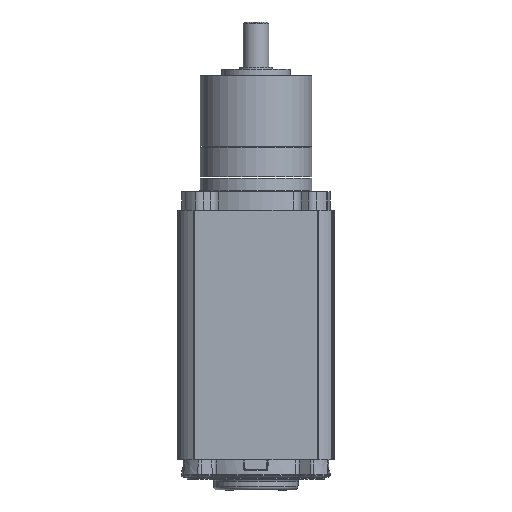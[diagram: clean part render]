
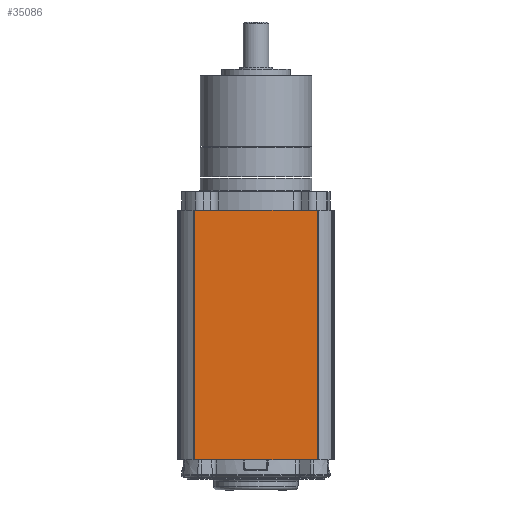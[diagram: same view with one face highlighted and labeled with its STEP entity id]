
A CAD part, front view. The second image highlights one B-rep face of the part: STEP entity #35086.
In plain terms, the highlighted planar face has unit normal (0, -1, 0).
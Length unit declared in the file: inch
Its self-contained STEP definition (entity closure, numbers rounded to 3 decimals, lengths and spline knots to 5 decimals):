
#1965 = LINE ( 'NONE', #20053, #46729 ) ;
#2117 = VECTOR ( 'NONE', #35006, 39.37008 ) ;
#2620 = DIRECTION ( 'NONE',  ( 1., 0., 0. ) ) ;
#2796 = DIRECTION ( 'NONE',  ( 0., 0., -1. ) ) ;
#8535 = CARTESIAN_POINT ( 'NONE',  ( -1.1275, -1.442, -6.41754 ) ) ;
#15161 = VERTEX_POINT ( 'NONE', #25123 ) ;
#15585 = CARTESIAN_POINT ( 'NONE',  ( 1.1275, -1.442, -1.83454 ) ) ;
#16937 = EDGE_CURVE ( 'NONE', #15161, #27469, #42724, .T. ) ;
#20053 = CARTESIAN_POINT ( 'NONE',  ( -1.1475, -1.442, -1.83454 ) ) ;
#21024 = EDGE_CURVE ( 'NONE', #43804, #49621, #1965, .T. ) ;
#23491 = DIRECTION ( 'NONE',  ( 0., -1., 0. ) ) ;
#24065 = ORIENTED_EDGE ( 'NONE', *, *, #16937, .F. ) ;
#24549 = CARTESIAN_POINT ( 'NONE',  ( -1.1275, -1.442, -6.55254 ) ) ;
#24692 = ORIENTED_EDGE ( 'NONE', *, *, #27254, .T. ) ;
#25123 = CARTESIAN_POINT ( 'NONE',  ( 1.1275, -1.442, -6.41754 ) ) ;
#26524 = ORIENTED_EDGE ( 'NONE', *, *, #36075, .T. ) ;
#27254 = EDGE_CURVE ( 'NONE', #43804, #27469, #37346, .T. ) ;
#27469 = VERTEX_POINT ( 'NONE', #8535 ) ;
#27582 = PLANE ( 'NONE',  #38446 ) ;
#31233 = VECTOR ( 'NONE', #53876, 39.37008 ) ;
#33706 = FACE_OUTER_BOUND ( 'NONE', #51754, .T. ) ;
#34947 = ORIENTED_EDGE ( 'NONE', *, *, #21024, .F. ) ;
#35006 = DIRECTION ( 'NONE',  ( 0., 0., 1. ) ) ;
#35086 = ADVANCED_FACE ( 'NONE', ( #33706 ), #27582, .T. ) ;
#36075 = EDGE_CURVE ( 'NONE', #15161, #49621, #36770, .T. ) ;
#36770 = LINE ( 'NONE', #52333, #2117 ) ;
#37346 = LINE ( 'NONE', #24549, #48837 ) ;
#38446 = AXIS2_PLACEMENT_3D ( 'NONE', #49240, #23491, #53575 ) ;
#40710 = CARTESIAN_POINT ( 'NONE',  ( -1.1275, -1.442, -1.83454 ) ) ;
#42724 = LINE ( 'NONE', #45228, #31233 ) ;
#43804 = VERTEX_POINT ( 'NONE', #40710 ) ;
#45228 = CARTESIAN_POINT ( 'NONE',  ( 1.1275, -1.442, -6.41754 ) ) ;
#46729 = VECTOR ( 'NONE', #2620, 39.37008 ) ;
#48837 = VECTOR ( 'NONE', #2796, 39.37008 ) ;
#49240 = CARTESIAN_POINT ( 'NONE',  ( -1.1475, -1.442, -6.55254 ) ) ;
#49621 = VERTEX_POINT ( 'NONE', #15585 ) ;
#51754 = EDGE_LOOP ( 'NONE', ( #24692, #24065, #26524, #34947 ) ) ;
#52333 = CARTESIAN_POINT ( 'NONE',  ( 1.1275, -1.442, -6.55254 ) ) ;
#53575 = DIRECTION ( 'NONE',  ( 1., 0., 0. ) ) ;
#53876 = DIRECTION ( 'NONE',  ( -1., 0., 0. ) ) ;
